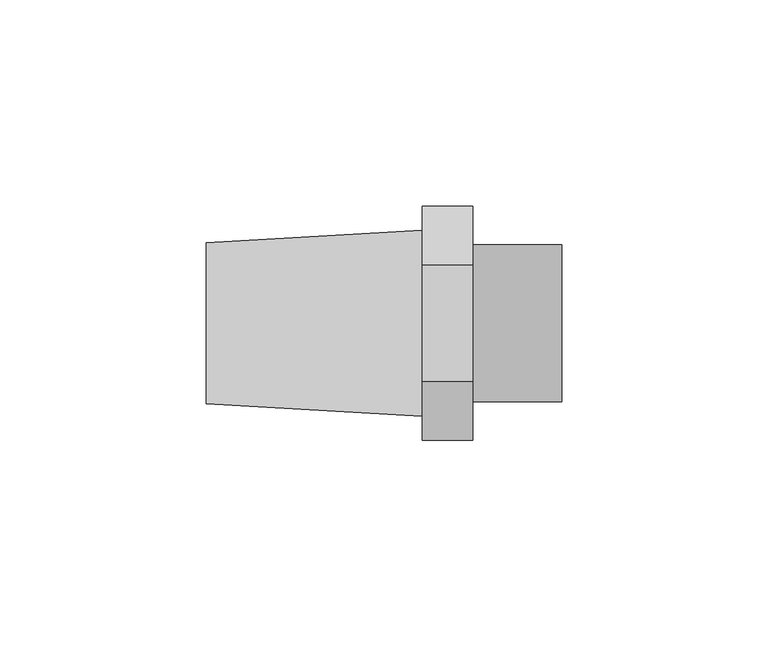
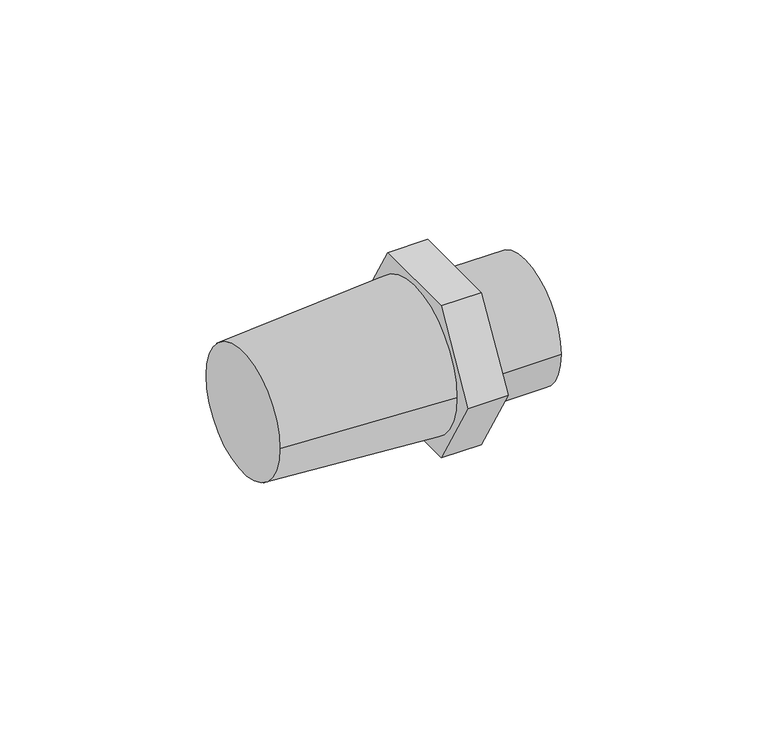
"""IFC4 building model written with IfcOpenShell, lengths in millimetres: pipe fitting geometry, 01011013 : Espiga conexion cónica/roscada."""

import ifcopenshell
import ifcopenshell.guid

model = None  # the IFC model being written
_history = None  # IfcOwnerHistory: only IFC2X3 demands one
_inside = {}  # id of a spatial element -> (the spatial element, [elements in it])
_under = {}  # id of a project, library or spatial element -> (it, [spatial elements below it])
_declared = {}  # id of a project -> (the project, [libraries it declares])
_typed = {}  # id of a type object -> (the type object, [elements of that type])
_made_of = {}  # id of a material, layer set ... -> (it, [elements and type objects made of it])


def new_model(schema):
    """Start an empty IFC model of exactly this schema.

    Asked for "IFC4X3", IfcOpenShell would pick the latest addendum, in which some entities
    have other attributes; the version numbers below select the first issue.
    IFC2X3 requires an IfcOwnerHistory on every rooted entity: one is made here for all.
    """
    global model, _history
    if schema == "IFC4X3":
        model = ifcopenshell.file(schema_version=(4, 3, 0, 0))
    else:
        model = ifcopenshell.file(schema=schema)
    _inside.clear()
    _under.clear()
    _declared.clear()
    _typed.clear()
    _made_of.clear()
    _history = None
    if model.schema == "IFC2X3":
        org = make("IfcOrganization", Name="unknown")
        user = make(
            "IfcPersonAndOrganization",
            ThePerson=make("IfcPerson", FamilyName="unknown"),
            TheOrganization=org,
        )
        app = make(
            "IfcApplication",
            ApplicationDeveloper=org,
            Version="unknown",
            ApplicationFullName="unknown",
            ApplicationIdentifier="unknown",
        )
        _history = make(
            "IfcOwnerHistory",
            OwningUser=user,
            OwningApplication=app,
            ChangeAction="ADDED",
            CreationDate=0,
        )
    return model


def make(cls, **values):
    """One entity of the class cls with the attributes given. An attribute that is None is left unset."""
    return model.create_entity(
        cls, **{name: value for name, value in values.items() if value is not None}
    )


def rooted(cls, **values):
    """An entity with a GlobalId (a new one), such as an element, a storey or a relation."""
    return make(cls, GlobalId=ifcopenshell.guid.new(), OwnerHistory=_history, **values)


def si_unit(unit_type, name, prefix=None):
    """IfcSIUnit, for example si_unit("LENGTHUNIT", "METRE", prefix="MILLI")."""
    return make("IfcSIUnit", UnitType=unit_type, Prefix=prefix, Name=name)


def assignment(units):
    """IfcUnitAssignment: the units of a project."""
    return None if units is None else make("IfcUnitAssignment", Units=units)


def point(xyz):
    """IfcCartesianPoint."""
    return None if xyz is None else make("IfcCartesianPoint", Coordinates=xyz)


def direction(xyz):
    """IfcDirection."""
    return None if xyz is None else make("IfcDirection", DirectionRatios=xyz)


def frame(location, z_axis=None, x_axis=None):
    """IfcAxis2Placement3D, a coordinate frame: its origin and axes. An axis left out is left unset."""
    return make(
        "IfcAxis2Placement3D",
        Location=point(location),
        Axis=direction(z_axis),
        RefDirection=direction(x_axis),
    )


def origin():
    """The frame at (0, 0, 0) with its axes left unset."""
    return frame((0.0, 0.0, 0.0))


def place(relative_to, where):
    """IfcLocalPlacement: puts the frame where relative to a parent placement (None: the world)."""
    return make(
        "IfcLocalPlacement", PlacementRelTo=relative_to, RelativePlacement=where
    )


def context(
    kind, dimensions, precision=None, world=None, true_north=None, identifier=None
):
    """IfcGeometricRepresentationContext, for example the 3D "Model" context."""
    return make(
        "IfcGeometricRepresentationContext",
        ContextIdentifier=identifier,
        ContextType=kind,
        CoordinateSpaceDimension=dimensions,
        Precision=precision,
        WorldCoordinateSystem=world,
        TrueNorth=true_north,
    )


def project(units=None, contexts=None):
    """IfcProject with its units and contexts."""
    return rooted(
        "IfcProject",
        Name="project",
        RepresentationContexts=contexts,
        UnitsInContext=assignment(units),
    )


def spatial(cls, under=None, at=None, **own):
    """A site, building, storey or space (cls), placed at a placement, below another one or the project."""
    s = rooted(cls, ObjectPlacement=at, **own)
    if under is not None:
        _under.setdefault(under.id(), (under, []))[1].append(s)
    return s


def polyline(points):
    """IfcPolyline through the points."""
    return make("IfcPolyline", Points=[point(p) for p in points])


def circle_curve(where, radius):
    """IfcCircle in the frame where."""
    return make("IfcCircle", Position=where, Radius=radius)


def shape(context_of_items, identifier, shape_type, items):
    """IfcShapeRepresentation: the items that make up one representation, for example the "Body"."""
    return make(
        "IfcShapeRepresentation",
        ContextOfItems=context_of_items,
        RepresentationIdentifier=identifier,
        RepresentationType=shape_type,
        Items=items,
    )


def source(mapping_origin, context_of_items, identifier, shape_type, items):
    """IfcRepresentationMap: a shape defined once, which mapped items show again and again."""
    return make(
        "IfcRepresentationMap",
        MappingOrigin=mapping_origin,
        MappedRepresentation=shape(context_of_items, identifier, shape_type, items),
    )


def transform(
    local_origin,
    x_axis=None,
    y_axis=None,
    z_axis=None,
    scale=None,
    scale2=None,
    scale3=None,
    uniform=True,
):
    """IfcCartesianTransformationOperator3D, or its non-uniform kind. x_axis, y_axis, z_axis: its Axis1, 2, 3."""
    if uniform:
        return make(
            "IfcCartesianTransformationOperator3D",
            Axis1=direction(x_axis),
            Axis2=direction(y_axis),
            LocalOrigin=point(local_origin),
            Scale=scale,
            Axis3=direction(z_axis),
        )
    return make(
        "IfcCartesianTransformationOperator3DnonUniform",
        Axis1=direction(x_axis),
        Axis2=direction(y_axis),
        LocalOrigin=point(local_origin),
        Scale=scale,
        Axis3=direction(z_axis),
        Scale2=scale2,
        Scale3=scale3,
    )


def mapped(mapping_source, mapping_target):
    """IfcMappedItem: shows the shape of a source again, moved by a transform."""
    return make(
        "IfcMappedItem", MappingSource=mapping_source, MappingTarget=mapping_target
    )


def made_of(thing, what):
    """Note that an element or type object is made of a material, layer set ...; save() writes the relation."""
    if what is not None:
        _made_of.setdefault(what.id(), (what, []))[1].append(thing)
    return thing


def element(
    cls,
    number,
    at=None,
    inside=None,
    cuts=None,
    type_object=None,
    material=None,
    context=None,
    identifier="Body",
    shape_type=None,
    held_by="IfcProductDefinitionShape",
    body=None,
    shapes=None,
    **own,
):
    """One element of the class cls, such as IfcWall. Its Tag is "e" and its number.

    at: its placement. inside: the storey or other place that contains it. cuts: it is an
    opening in that element (IfcRelVoidsElement). A single representation is given by context,
    identifier, shape_type and body (its items); several are given by shapes. held_by: the class
    of the entity that holds the representations. save() writes the other relations.
    """
    e = rooted(cls, Tag="e%d" % number, ObjectPlacement=at, **own)
    if body is not None:
        shapes = [shape(context, identifier, shape_type, body)]
    if shapes is not None:
        e.Representation = make(held_by, Representations=shapes)
    if inside is not None:
        _inside.setdefault(inside.id(), (inside, []))[1].append(e)
    if cuts is not None:
        rooted(
            "IfcRelVoidsElement", RelatingBuildingElement=cuts, RelatedOpeningElement=e
        )
    if type_object is not None:
        _typed.setdefault(type_object.id(), (type_object, []))[1].append(e)
    return made_of(e, material)


def aggregate(whole, parts):
    """IfcRelAggregates: a whole, such as a stair, and the parts it consists of."""
    return rooted("IfcRelAggregates", RelatingObject=whole, RelatedObjects=parts)


def save(model, path):
    """Write the relations noted so far, then the file.

    IfcRelAggregates (storeys below a building ...), IfcRelContainedInSpatialStructure (elements
    in a storey), IfcRelDefinesByType, IfcRelAssociatesMaterial and IfcRelDeclares: one each for
    every whole, place, type object, material and project.
    """
    for whole, parts in _under.values():
        aggregate(whole, parts)
    for where, things in _inside.values():
        rooted(
            "IfcRelContainedInSpatialStructure",
            RelatedElements=things,
            RelatingStructure=where,
        )
    for kind, things in _typed.values():
        rooted("IfcRelDefinesByType", RelatedObjects=things, RelatingType=kind)
    for what, things in _made_of.values():
        rooted("IfcRelAssociatesMaterial", RelatedObjects=things, RelatingMaterial=what)
    for by, libraries in _declared.values():
        rooted("IfcRelDeclares", RelatingContext=by, RelatedDefinitions=libraries)
    model.write(path)


def plane_surface(at):
    """IfcPlane: the flat surface through the origin of the frame at, square to its z axis."""
    return make("IfcPlane", Position=at)


def cylinder_surface(at, radius):
    """IfcCylindricalSurface: all points at the distance radius from the z axis of the frame at."""
    return make("IfcCylindricalSurface", Position=at, Radius=radius)


def revolved_surface(curve, axis_point, axis_direction):
    """IfcSurfaceOfRevolution: the curve turned about the line through axis_point along axis_direction."""
    return make(
        "IfcSurfaceOfRevolution",
        SweptCurve=make("IfcArbitraryOpenProfileDef", ProfileType="CURVE", Curve=curve),
        AxisPosition=make("IfcAxis1Placement", Location=point(axis_point), Axis=direction(axis_direction)),
    )


def advanced_brep(points, edges, surfaces, faces):
    """IfcAdvancedBrep: a solid bounded by faces that lie on surfaces and meet in shared edges.

    An edge is (start, end): straight between two places in points (the first is 0);
    or (start, end, curve); or (start, end, curve, False) where it runs against its curve.
    A face is (place in surfaces, loops), or (place, loops, False) where it looks against
    its surface's normal. A loop lists edges by number (the first is 1), with a minus sign
    where the edge is run from its end to its start. The first loop is the outer one.
    """
    corners = [point(p) for p in points]
    vertices = [make("IfcVertexPoint", VertexGeometry=c) for c in corners]
    made = []
    for start, end, *more in edges:
        made.append(
            make(
                "IfcEdgeCurve",
                EdgeStart=vertices[start],
                EdgeEnd=vertices[end],
                EdgeGeometry=more[0] if more else make("IfcPolyline", Points=[corners[start], corners[end]]),
                SameSense=more[1] if len(more) > 1 else True,
            )
        )
    hull = []
    for where, loops, *sense in faces:
        bounds = []
        for j, loop in enumerate(loops):
            ring = [make("IfcOrientedEdge", EdgeElement=made[abs(k) - 1], Orientation=k > 0) for k in loop]
            bounds.append(
                make(
                    "IfcFaceOuterBound" if j == 0 else "IfcFaceBound",
                    Bound=make("IfcEdgeLoop", EdgeList=ring),
                    Orientation=True,
                )
            )
        hull.append(make("IfcAdvancedFace", Bounds=bounds, FaceSurface=surfaces[where], SameSense=sense[0] if sense else True))
    return make("IfcAdvancedBrep", Outer=make("IfcClosedShell", CfsFaces=hull))


def pipe_fitting_2ac0af15(model_context):
    return source(origin(), model_context, "Body", "AdvancedBrep", [
        advanced_brep(
        [(-43.0, 19.5, 0.0), (-43.0, -19.5, 0.0), (9.25, 22.5, 0.0), (9.25, -22.5, 0.0)],
        [
            (0, 1, circle_curve(frame((-43.0, 0.0, 0.0), z_axis=(-1.0, 0.0, 0.0), x_axis=(0.0, 1.0, 0.0)), 19.5)),
            (1, 0, circle_curve(frame((-43.0, 0.0, 0.0), z_axis=(-1.0, 0.0, 0.0), x_axis=(0.0, -1.0, 0.0)), 19.5)),
            (2, 3, circle_curve(frame((9.25, 0.0, 0.0), z_axis=(1.0, 0.0, 0.0), x_axis=(0.0, -1.0, 0.0)), 22.5)),
            (3, 2, circle_curve(frame((9.25, 0.0, 0.0), z_axis=(1.0, 0.0, 0.0), x_axis=(0.0, 1.0, 0.0)), 22.5)),
            (3, 1),
            (0, 2),
        ],
        [
            plane_surface(frame((-43.0, 0.0, 0.0), z_axis=(-1.0, 0.0, 0.0), x_axis=(0.0, 0.0, -1.0))),
            plane_surface(frame((9.25, 0.0, 0.0), z_axis=(1.0, 0.0, 0.0), x_axis=(0.0, 0.0, -1.0))),
            revolved_surface(polyline([(-43.0, 19.5, 0.0), (9.25, 22.5, 0.0)]), (-382.625, 0.0, 0.0), (1.0, 0.0, 0.0)),
            revolved_surface(polyline([(-43.0, -19.5, 0.0), (9.25, -22.5, 0.0)]), (-382.625, 0.0, 0.0), (1.0, 0.0, 0.0)),
        ],
        [
            (0, [[1, 2]]),
            (1, [[3, 4]]),
            (2, [[-4, 5, -1, 6]]),
            (3, [[-3, -6, -2, -5]]),
        ],
    ),
        advanced_brep(
        [(21.5, -14.1450816, 24.5), (21.5, -28.2901632, 0.0), (21.5, -14.1450816, -24.5), (21.5, 14.1450816, -24.5), (21.5, 28.2901632, 0.0), (21.5, 14.1450816, 24.5), (21.5, -19.05, 0.0), (21.5, 19.05, 0.0), (9.25, -14.1450816, 24.5), (9.25, 14.1450816, 24.5), (9.25, 28.2901632, 0.0), (9.25, 14.1450816, -24.5), (9.25, -14.1450816, -24.5), (9.25, -28.2901632, 0.0), (43.0, -19.05, 0.0), (43.0, 19.05, 0.0)],
        [
            (0, 1),
            (1, 2),
            (2, 3),
            (3, 4),
            (4, 5),
            (5, 0),
            (6, 7, circle_curve(frame((21.5, 0.0, 0.0), z_axis=(-1.0, 0.0, 0.0), x_axis=(0.0, 1.0, 0.0)), 19.05)),
            (7, 6, circle_curve(frame((21.5, 0.0, 0.0), z_axis=(-1.0, 0.0, 0.0), x_axis=(0.0, 1.0, 0.0)), 19.05)),
            (8, 9),
            (9, 10),
            (10, 11),
            (11, 12),
            (12, 13),
            (13, 8),
            (0, 8),
            (13, 1),
            (12, 2),
            (11, 3),
            (10, 4),
            (9, 5),
            (14, 15, circle_curve(frame((43.0, 0.0, 0.0), z_axis=(1.0, 0.0, 0.0), x_axis=(0.0, 1.0, 0.0)), 19.05)),
            (15, 14, circle_curve(frame((43.0, 0.0, 0.0), z_axis=(1.0, 0.0, 0.0), x_axis=(0.0, 1.0, 0.0)), 19.05)),
            (15, 7),
            (6, 14),
        ],
        [
            plane_surface(frame((21.5, -14.1450816, 24.5), z_axis=(1.0000000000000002, 0.0, 0.0), x_axis=(0.0, -0.5000000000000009, -0.8660254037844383))),
            plane_surface(frame((9.25, -14.1450816, 24.5), z_axis=(-1.0000000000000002, 0.0, 0.0), x_axis=(0.0, 0.5000000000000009, 0.8660254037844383))),
            plane_surface(frame((21.5, -14.1450816, 24.5), z_axis=(0.0, -0.8660254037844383, 0.5000000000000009), x_axis=(-1.0, 0.0, 0.0))),
            plane_surface(frame((21.5, -28.2901632, 0.0), z_axis=(0.0, -0.8660254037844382, -0.500000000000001), x_axis=(-1.0, 0.0, 0.0))),
            plane_surface(frame((21.5, -14.1450816, -24.5), z_axis=(0.0, 0.0, -1.0), x_axis=(-1.0, 0.0, 0.0))),
            plane_surface(frame((21.5, 14.1450816, -24.5), z_axis=(0.0, 0.8660254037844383, -0.5000000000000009), x_axis=(-1.0, 0.0, 0.0))),
            plane_surface(frame((21.5, 28.2901632, 0.0), z_axis=(0.0, 0.8660254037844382, 0.500000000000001), x_axis=(-1.0, 0.0, 0.0))),
            plane_surface(frame((21.5, 14.1450816, 24.5), z_axis=(0.0, 0.0, 1.0), x_axis=(-1.0, 0.0, 0.0))),
            plane_surface(frame((43.0, 0.0, 0.0), z_axis=(1.0, 0.0, 0.0), x_axis=(0.0, 0.0, 1.0))),
            cylinder_surface(frame((21.5, 0.0, 0.0), z_axis=(-1.0, 0.0, 0.0), x_axis=(0.0, 1.0, 0.0)), 19.05),
        ],
        [
            (0, [[1, 2, 3, 4, 5, 6], [7, 8]]),
            (1, [[9, 10, 11, 12, 13, 14]]),
            (2, [[-1, 15, -14, 16]]),
            (3, [[-2, -16, -13, 17]]),
            (4, [[-3, -17, -12, 18]]),
            (5, [[-4, -18, -11, 19]]),
            (6, [[-5, -19, -10, 20]]),
            (7, [[-6, -20, -9, -15]]),
            (8, [[21, 22]]),
            (9, [[-22, 23, -7, 24]]),
            (9, [[-21, -24, -8, -23]]),
        ],
    ),
    ])


if __name__ == "__main__":
    model = new_model("IFC4")
    model_context = context("Model", 3, world=origin())
    ifc_project = project(units=[si_unit("LENGTHUNIT", "METRE", prefix="MILLI")], contexts=[model_context])
    site = spatial("IfcSite", under=ifc_project)
    building = spatial("IfcBuilding", under=site)
    placement = place(None, origin())
    pipe_fitting_shape = pipe_fitting_2ac0af15(model_context)
    element("IfcPipeFitting", 1, ObjectType="01011013 : Espiga conexion cónica/roscada", at=placement, inside=building, context=model_context, shape_type="MappedRepresentation", body=[
        mapped(pipe_fitting_shape, transform((0.0, 0.0, 0.0), x_axis=(1.0, 0.0, 0.0), y_axis=(0.0, 1.0, 0.0), z_axis=(0.0, 0.0, 1.0))),
    ])
    save(model, "model.ifc")
